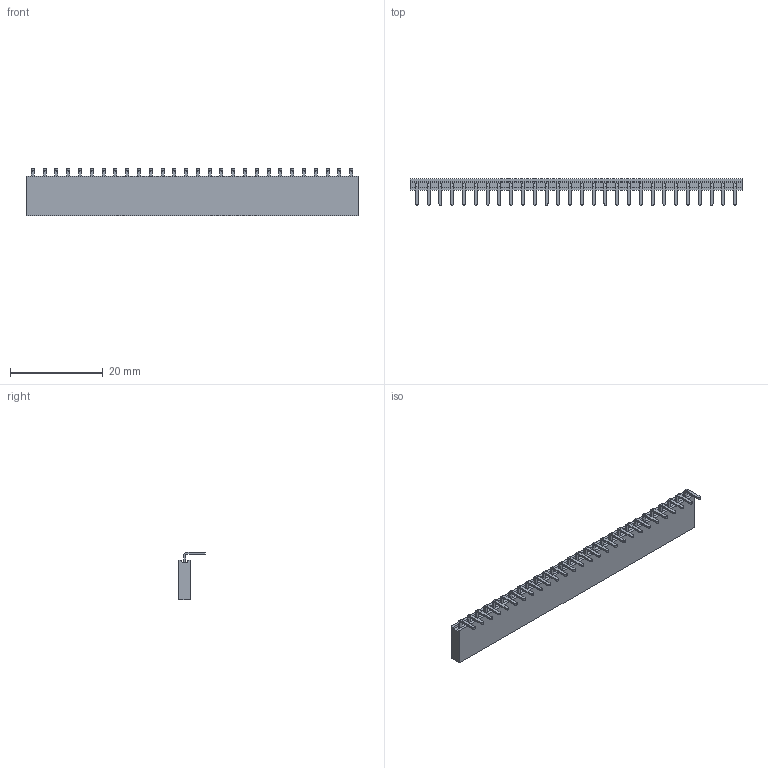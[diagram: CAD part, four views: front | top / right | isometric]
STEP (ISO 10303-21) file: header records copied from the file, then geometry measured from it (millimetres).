
FILE_DESCRIPTION (( 'STEP AP203' ), '1' );
FILE_NAME ('PM254-1-28-W-8.5-XX (2.54单排 弯针 排母 塑高8.5-HCTL).STEP', '2026-04-20T01:44:54', ( '' ), ( '' ), 'SwSTEP 2.0', 'SolidWorks 2025', '' );
FILE_SCHEMA (( 'CONFIG_CONTROL_DESIGN' ));
Length unit declared in the file: millimetre
Products named in the file (1): PM254-1-28-W-8.5-XX (2.54单排 弯针 排母 塑高8.5-HCTL)
Bounding box: 71.52 x 5.7 x 10.2 mm (x, y, z)
Volume: 1500.6 mm3; surface area: 2089.4 mm2
Topology: 1 solids, 1 shells, 432 faces, 1122 edges, 748 vertices
Faces by surface type: plane 318, cylinder 114
Entity records: 13231 total; most frequent: CARTESIAN_POINT 2303, ORIENTED_EDGE 2244, DIRECTION 2216, EDGE_CURVE 1122, VECTOR 894, LINE 894, VERTEX_POINT 748, AXIS2_PLACEMENT_3D 661
